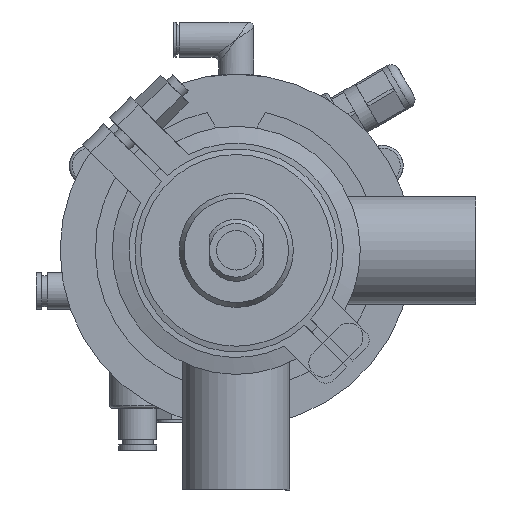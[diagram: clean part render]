
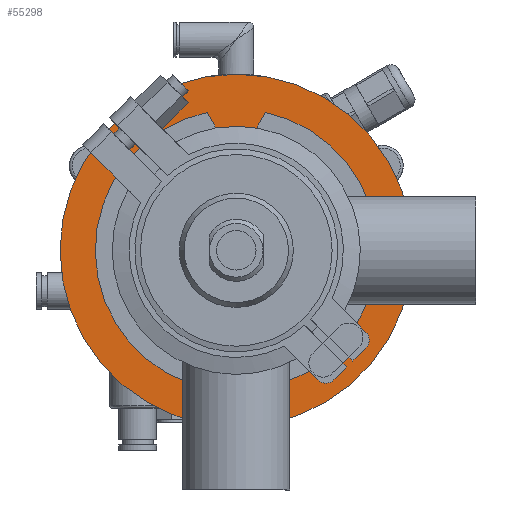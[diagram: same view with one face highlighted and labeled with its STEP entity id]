
A CAD part, front view. The second image highlights one B-rep face of the part: STEP entity #55298.
In plain terms, the highlighted planar face has unit normal (0, -1, 0).
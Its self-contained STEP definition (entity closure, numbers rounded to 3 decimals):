
#941 = VERTEX_POINT ( 'NONE', #38782 ) ;
#1398 = CARTESIAN_POINT ( 'NONE',  ( 0., 0., 0. ) ) ;
#5461 = PLANE ( 'NONE',  #17791 ) ;
#13959 = AXIS2_PLACEMENT_3D ( 'NONE', #58267, #29601, #43922 ) ;
#14465 = DIRECTION ( 'NONE',  ( 0., 1., 0. ) ) ;
#17791 = AXIS2_PLACEMENT_3D ( 'NONE', #1398, #14465, #25229 ) ;
#21818 = CIRCLE ( 'NONE', #13959, 62.5 ) ;
#25229 = DIRECTION ( 'NONE',  ( 0., 0., 1. ) ) ;
#29601 = DIRECTION ( 'NONE',  ( 0., -1., 0. ) ) ;
#38542 = ORIENTED_EDGE ( 'NONE', *, *, #56238, .T. ) ;
#38782 = CARTESIAN_POINT ( 'NONE',  ( 0., 0., -62.5 ) ) ;
#39534 = FACE_OUTER_BOUND ( 'NONE', #44627, .T. ) ;
#43922 = DIRECTION ( 'NONE',  ( 0., 0., -1. ) ) ;
#44627 = EDGE_LOOP ( 'NONE', ( #38542 ) ) ;
#55298 = ADVANCED_FACE ( 'NONE', ( #39534 ), #5461, .F. ) ;
#56238 = EDGE_CURVE ( 'NONE', #941, #941, #21818, .T. ) ;
#58267 = CARTESIAN_POINT ( 'NONE',  ( 0., 0., 0. ) ) ;
